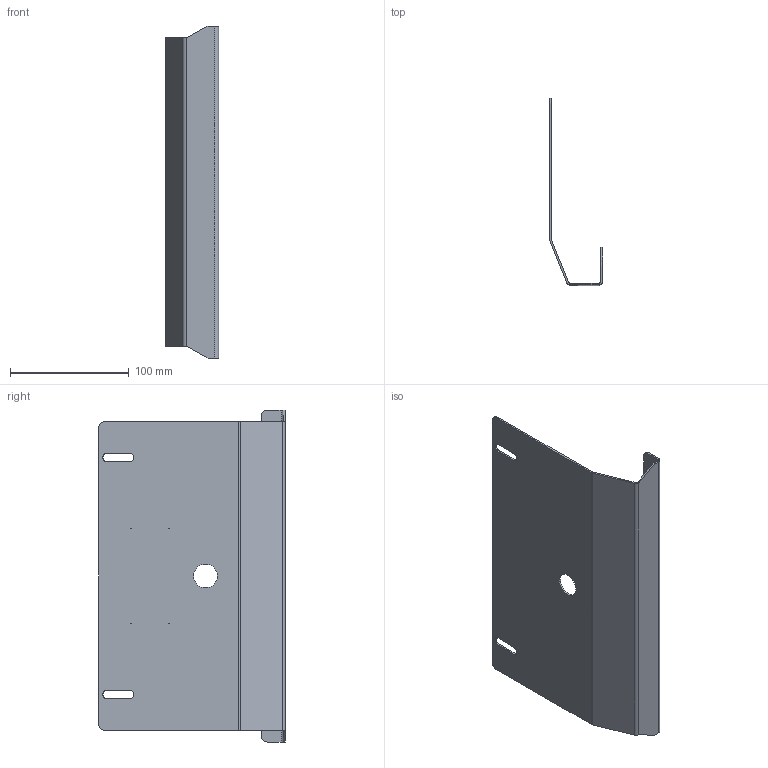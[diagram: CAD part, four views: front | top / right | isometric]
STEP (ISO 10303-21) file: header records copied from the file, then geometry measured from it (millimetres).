
FILE_DESCRIPTION (( 'STEP AP203' ), '1' );
FILE_NAME ('ORW-62.24.80.001 Ñêîáà.STEP', '2024-11-22T12:47:58', ( 'Àíäðåé' ), ( '' ), 'SwSTEP 2.0', 'SolidWorks 2023', '' );
FILE_SCHEMA (( 'CONFIG_CONTROL_DESIGN' ));
Length unit declared in the file: millimetre
Products named in the file (1): ORW-62.24.80.001 Скоба
Bounding box: 45 x 157.28 x 280 mm (x, y, z)
Volume: 81672.1 mm3; surface area: 110615.7 mm2
Topology: 1 solids, 1 shells, 51 faces, 139 edges, 90 vertices
Faces by surface type: plane 28, cylinder 23
Full cylindrical faces by diameter (mm): 0.5 x4, 20 x1
Entity records: 1695 total; most frequent: DIRECTION 284, CARTESIAN_POINT 276, ORIENTED_EDGE 268, EDGE_CURVE 134, AXIS2_PLACEMENT_3D 98, VERTEX_POINT 90, VECTOR 88, LINE 88
